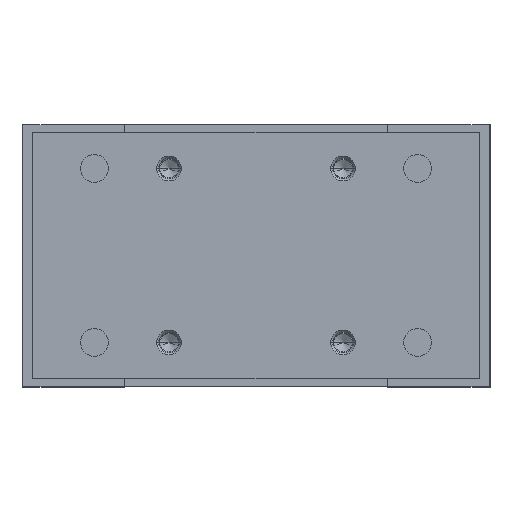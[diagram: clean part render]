
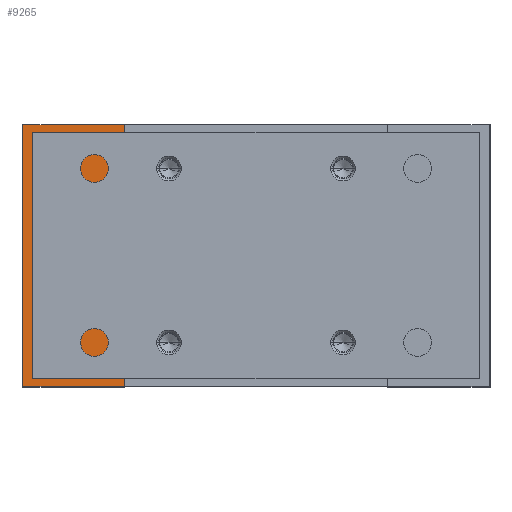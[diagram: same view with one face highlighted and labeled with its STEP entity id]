
A CAD part, top view. The second image highlights one B-rep face of the part: STEP entity #9265.
In plain terms, the highlighted planar face has unit normal (0, 0, 1).
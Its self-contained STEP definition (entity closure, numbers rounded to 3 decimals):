
#92 = AXIS2_PLACEMENT_3D ( 'NONE', #9428, #6205, #10216 ) ;
#287 = PLANE ( 'NONE',  #1390 ) ;
#539 = CARTESIAN_POINT ( 'NONE',  ( -75.7, -42.5, 71. ) ) ;
#700 = CARTESIAN_POINT ( 'NONE',  ( -75.7, 85., 71. ) ) ;
#990 = ORIENTED_EDGE ( 'NONE', *, *, #6297, .F. ) ;
#1105 = CARTESIAN_POINT ( 'NONE',  ( -42.75, 42.5, 71. ) ) ;
#1257 = CARTESIAN_POINT ( 'NONE',  ( -75.7, 42.5, 71. ) ) ;
#1390 = AXIS2_PLACEMENT_3D ( 'NONE', #2661, #6621, #4977 ) ;
#1970 = FACE_BOUND ( 'NONE', #9289, .T. ) ;
#2040 = EDGE_CURVE ( 'NONE', #8557, #8128, #8852, .T. ) ;
#2245 = ORIENTED_EDGE ( 'NONE', *, *, #7370, .T. ) ;
#2304 = CARTESIAN_POINT ( 'NONE',  ( -76., -42.5, 71. ) ) ;
#2661 = CARTESIAN_POINT ( 'NONE',  ( -76., 42.5, 71. ) ) ;
#2767 = DIRECTION ( 'NONE',  ( 1., 0., 0. ) ) ;
#3437 = VERTEX_POINT ( 'NONE', #539 ) ;
#3659 = CARTESIAN_POINT ( 'NONE',  ( -76., 42.5, 71. ) ) ;
#3820 = VECTOR ( 'NONE', #7880, 1000. ) ;
#4019 = CARTESIAN_POINT ( 'NONE',  ( -69.5, 0., 71. ) ) ;
#4122 = EDGE_LOOP ( 'NONE', ( #990, #8070, #2245, #6544 ) ) ;
#4168 = EDGE_CURVE ( 'NONE', #8128, #8557, #6854, .T. ) ;
#4318 = ORIENTED_EDGE ( 'NONE', *, *, #2040, .F. ) ;
#4417 = EDGE_CURVE ( 'NONE', #9772, #3437, #6458, .T. ) ;
#4619 = LINE ( 'NONE', #2304, #8108 ) ;
#4977 = DIRECTION ( 'NONE',  ( 0., -1., 0. ) ) ;
#5255 = CARTESIAN_POINT ( 'NONE',  ( -42.75, -42.5, 71. ) ) ;
#5739 = DIRECTION ( 'NONE',  ( 1., 0., 0. ) ) ;
#6173 = VECTOR ( 'NONE', #7490, 1000. ) ;
#6205 = DIRECTION ( 'NONE',  ( 0., 0., 1. ) ) ;
#6297 = EDGE_CURVE ( 'NONE', #9772, #9710, #10003, .T. ) ;
#6458 = LINE ( 'NONE', #700, #3820 ) ;
#6502 = ORIENTED_EDGE ( 'NONE', *, *, #4168, .F. ) ;
#6544 = ORIENTED_EDGE ( 'NONE', *, *, #10036, .F. ) ;
#6621 = DIRECTION ( 'NONE',  ( 0., 0., -1. ) ) ;
#6682 = CARTESIAN_POINT ( 'NONE',  ( -59.5, 0., 71. ) ) ;
#6738 = DIRECTION ( 'NONE',  ( 0., 0., 1. ) ) ;
#6854 = CIRCLE ( 'NONE', #9061, 10. ) ;
#7370 = EDGE_CURVE ( 'NONE', #3437, #7503, #4619, .T. ) ;
#7440 = CARTESIAN_POINT ( 'NONE',  ( -42.75, 42.5, 71. ) ) ;
#7490 = DIRECTION ( 'NONE',  ( 0., -1., 0. ) ) ;
#7503 = VERTEX_POINT ( 'NONE', #5255 ) ;
#7880 = DIRECTION ( 'NONE',  ( 0., -1., 0. ) ) ;
#7998 = DIRECTION ( 'NONE',  ( 1., 0., 0. ) ) ;
#8070 = ORIENTED_EDGE ( 'NONE', *, *, #4417, .T. ) ;
#8108 = VECTOR ( 'NONE', #7998, 1000. ) ;
#8128 = VERTEX_POINT ( 'NONE', #4019 ) ;
#8145 = FACE_OUTER_BOUND ( 'NONE', #4122, .T. ) ;
#8557 = VERTEX_POINT ( 'NONE', #9826 ) ;
#8852 = CIRCLE ( 'NONE', #92, 10. ) ;
#9061 = AXIS2_PLACEMENT_3D ( 'NONE', #6682, #6738, #5739 ) ;
#9265 = ADVANCED_FACE ( 'NONE', ( #8145, #1970 ), #287, .F. ) ;
#9289 = EDGE_LOOP ( 'NONE', ( #6502, #4318 ) ) ;
#9428 = CARTESIAN_POINT ( 'NONE',  ( -59.5, 0., 71. ) ) ;
#9710 = VERTEX_POINT ( 'NONE', #1105 ) ;
#9766 = LINE ( 'NONE', #7440, #6173 ) ;
#9772 = VERTEX_POINT ( 'NONE', #1257 ) ;
#9826 = CARTESIAN_POINT ( 'NONE',  ( -49.5, 0., 71. ) ) ;
#9953 = VECTOR ( 'NONE', #2767, 1000. ) ;
#10003 = LINE ( 'NONE', #3659, #9953 ) ;
#10036 = EDGE_CURVE ( 'NONE', #9710, #7503, #9766, .T. ) ;
#10216 = DIRECTION ( 'NONE',  ( 1., 0., 0. ) ) ;
